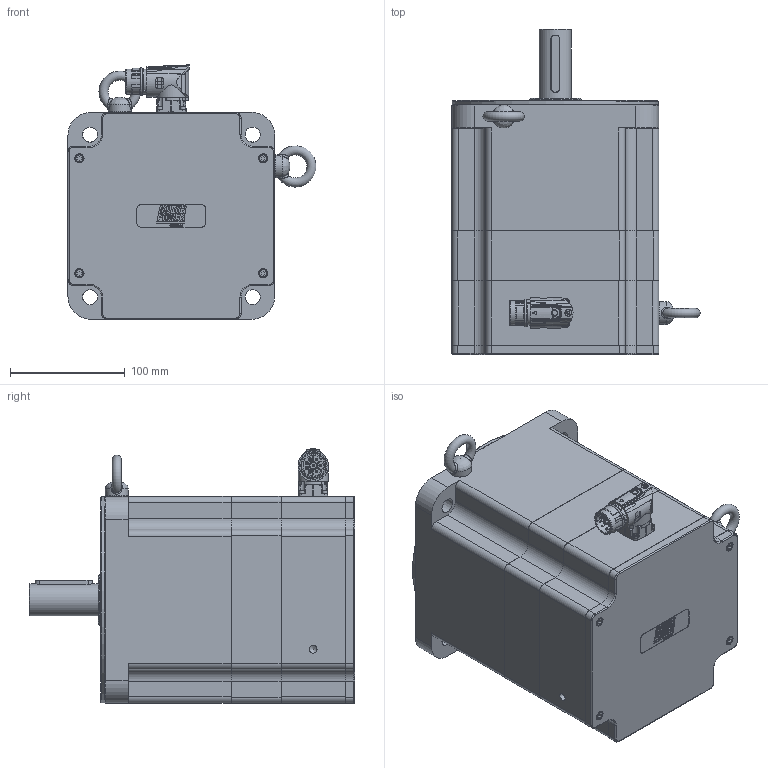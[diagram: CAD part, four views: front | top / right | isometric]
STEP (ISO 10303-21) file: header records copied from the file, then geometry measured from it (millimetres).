
FILE_DESCRIPTION(/* description */ ('Unknown'),/* implementation_level */ '2;1');
FILE_NAME(/* name */ 'TC4-180.7A.X X.X.3.XX.1.X.C21 Q0B807',/* time_stamp */ '2026-03-10T10:38:54+01:00',/* author */ ('Unknown'),/* organization */ ('Unknown'),/* preprocessor_version */ 'ST-DEVELOPER v19.4',/* originating_system */ 'Solid Edge',/* authorisation */ 'Unknown');
FILE_SCHEMA (('AUTOMOTIVE_DESIGN {1 0 10303 214 3 1 1}'));
Products named in the file (16): Q0B807 7A FRENO VUOTO; 005256003057; Albero TC4-180 7A FRENO pred ECI1119; 003103040231; 003155002233; Coperchio campana TC4-180; 005113000610; 005119001104; 005911000185; 005911000479; 005321000010; 005911000180; 003251040631; 007117000456; 005308000115; Corpo TC4-180 7A V7
Assembly tree (29 placements, depth 2):
  Q0B807 7A FRENO VUOTO
    005256003057
    Albero TC4-180 7A FRENO pred ECI1119
    003103040231
    003155002233
    Coperchio campana TC4-180
    005113000610
    005119001104
    005911000185  x4
    005911000479  x8
    005321000010  x2
    005911000180  x4
    003251040631
    007117000456
    005308000115
    Corpo TC4-180 7A V7
Bounding box: 215.96 x 283 x 221.5 mm (x, y, z)
Volume: 2910499.5 mm3; surface area: 748846 mm2
Topology: 30 solids, 56 shells, 2111 faces, 5636 edges, 3673 vertices
Faces by surface type: plane 907, cylinder 562, bspline 247, cone 230, torus 129, sphere 36
Full cylindrical faces by diameter (mm): 1 x4, 1.4 x4, 2 x4, 2.013 x8, 2.459 x2, 2.5 x4, 2.8 x4, 3 x8, 3.242 x12, 4 x5, 4.134 x16, 4.2 x8, 4.5 x9, 4.7 x4, 4.917 x6, 5 x9, 5.5 x9, 5.8 x1, 5.9 x1, 6 x1, 6.647 x14, 6.8 x1, 7 x6, 8 x8, 8.376 x2, 9 x4, 10 x3, 14 x4, 15 x1, 17.4 x1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
Entity records: 75336 total; most frequent: CARTESIAN_POINT 19554, ORIENTED_EDGE 9008, DIRECTION 9002, EDGE_CURVE 4712, AXIS2_PLACEMENT_3D 3406, VERTEX_POINT 3294, FACE_BOUND 2491, EDGE_LOOP 2461
